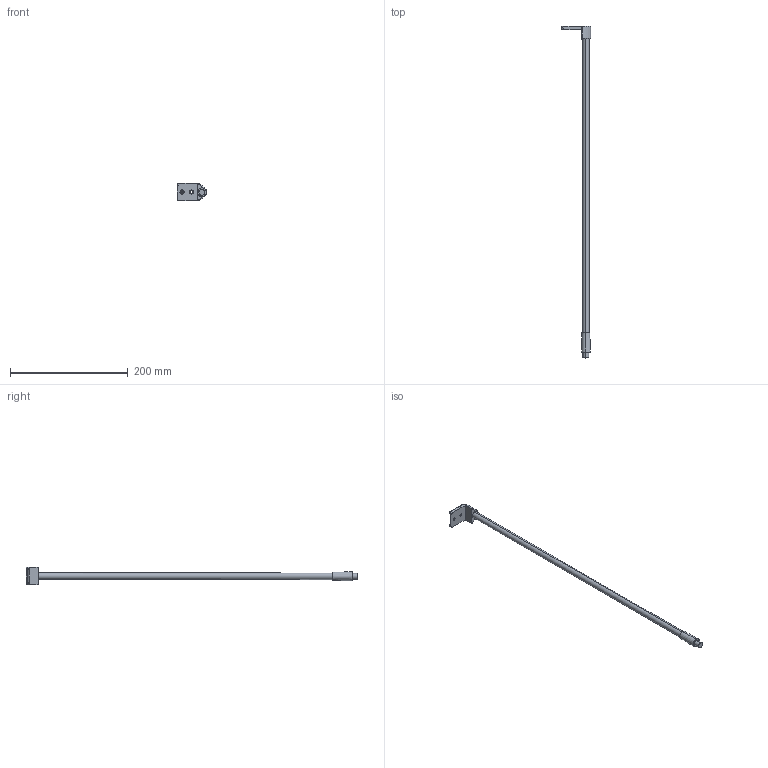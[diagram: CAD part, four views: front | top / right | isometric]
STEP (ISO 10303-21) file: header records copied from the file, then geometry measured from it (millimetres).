
FILE_DESCRIPTION (( 'STEP AP214' ), '1' );
FILE_NAME ('_2S_RUL_7107_NL550_RE.step', '2010-06-29T14:08:16', ( 'grass' ), ( '' ), 'SwSTEP 2.0', 'SolidWorks 2009', '' );
FILE_SCHEMA (( 'AUTOMOTIVE_DESIGN' ));
Length unit declared in the file: millimetre
Products named in the file (1): _2S_RUL_7107_NL550_RE
Bounding box: 49.5 x 563 x 30 mm (x, y, z)
Volume: 63747.2 mm3; surface area: 24067.7 mm2
Topology: 1 solids, 1 shells, 89 faces, 203 edges, 118 vertices
Faces by surface type: cylinder 32, plane 17, torus 16, bspline 16, cone 6, sphere 2
Entity records: 4566 total; most frequent: CARTESIAN_POINT 2608, DIRECTION 411, ORIENTED_EDGE 402, EDGE_CURVE 201, AXIS2_PLACEMENT_3D 172, VERTEX_POINT 118, CIRCLE 98, EDGE_LOOP 97
